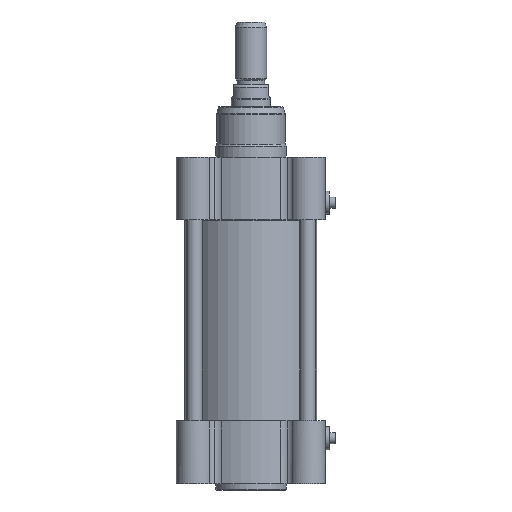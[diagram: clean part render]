
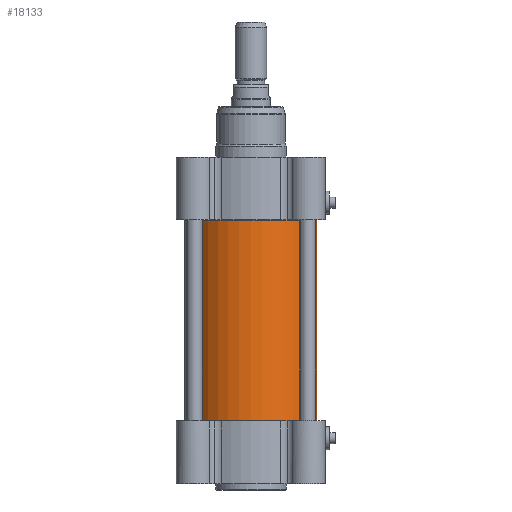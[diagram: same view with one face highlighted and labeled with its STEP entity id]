
A CAD part, front view. The second image highlights one B-rep face of the part: STEP entity #18133.
In plain terms, the highlighted cylindrical face has radius 42 mm (diameter 84 mm), a partial arc.
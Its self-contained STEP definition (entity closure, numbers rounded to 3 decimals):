
#1084 = CARTESIAN_POINT ( 'NONE',  ( 0., 0., 0.2 ) ) ;
#1723 = VERTEX_POINT ( 'NONE', #12046 ) ;
#1758 = CIRCLE ( 'NONE', #7232, 42. ) ;
#2853 = VERTEX_POINT ( 'NONE', #22502 ) ;
#4992 = LINE ( 'NONE', #26614, #16628 ) ;
#5057 = LINE ( 'NONE', #26542, #9592 ) ;
#6537 = DIRECTION ( 'NONE',  ( -1., 0., 0. ) ) ;
#6815 = CARTESIAN_POINT ( 'NONE',  ( 0., 0., 0. ) ) ;
#6996 = DIRECTION ( 'NONE',  ( 0., 0., 1. ) ) ;
#7208 = DIRECTION ( 'NONE',  ( 0., 0., 1. ) ) ;
#7232 = AXIS2_PLACEMENT_3D ( 'NONE', #16289, #13857, #24932 ) ;
#7731 = EDGE_CURVE ( 'NONE', #1723, #23466, #1758, .T. ) ;
#9592 = VECTOR ( 'NONE', #7208, 1000. ) ;
#10581 = ORIENTED_EDGE ( 'NONE', *, *, #17934, .T. ) ;
#10920 = CARTESIAN_POINT ( 'NONE',  ( 42., 0., 0.2 ) ) ;
#11646 = VERTEX_POINT ( 'NONE', #10920 ) ;
#11824 = ORIENTED_EDGE ( 'NONE', *, *, #7731, .F. ) ;
#12023 = CARTESIAN_POINT ( 'NONE',  ( 42., 0., 127.8 ) ) ;
#12046 = CARTESIAN_POINT ( 'NONE',  ( -42., 0., 127.8 ) ) ;
#13360 = CYLINDRICAL_SURFACE ( 'NONE', #18677, 42. ) ;
#13857 = DIRECTION ( 'NONE',  ( 0., 0., 1. ) ) ;
#15078 = FACE_OUTER_BOUND ( 'NONE', #15786, .T. ) ;
#15510 = AXIS2_PLACEMENT_3D ( 'NONE', #1084, #22261, #20135 ) ;
#15786 = EDGE_LOOP ( 'NONE', ( #16833, #10581, #11824, #25525 ) ) ;
#16289 = CARTESIAN_POINT ( 'NONE',  ( 0., 0., 127.8 ) ) ;
#16628 = VECTOR ( 'NONE', #6996, 1000. ) ;
#16833 = ORIENTED_EDGE ( 'NONE', *, *, #17866, .F. ) ;
#17866 = EDGE_CURVE ( 'NONE', #11646, #2853, #23675, .T. ) ;
#17934 = EDGE_CURVE ( 'NONE', #11646, #23466, #5057, .T. ) ;
#18133 = ADVANCED_FACE ( 'NONE', ( #15078 ), #13360, .T. ) ;
#18677 = AXIS2_PLACEMENT_3D ( 'NONE', #6815, #21446, #6537 ) ;
#20135 = DIRECTION ( 'NONE',  ( -1., 0., 0. ) ) ;
#21446 = DIRECTION ( 'NONE',  ( 0., 0., 1. ) ) ;
#22261 = DIRECTION ( 'NONE',  ( 0., 0., -1. ) ) ;
#22502 = CARTESIAN_POINT ( 'NONE',  ( -42., 0., 0.2 ) ) ;
#23466 = VERTEX_POINT ( 'NONE', #12023 ) ;
#23675 = CIRCLE ( 'NONE', #15510, 42. ) ;
#24932 = DIRECTION ( 'NONE',  ( -1., 0., 0. ) ) ;
#25525 = ORIENTED_EDGE ( 'NONE', *, *, #27900, .F. ) ;
#26542 = CARTESIAN_POINT ( 'NONE',  ( 42., 0., 0. ) ) ;
#26614 = CARTESIAN_POINT ( 'NONE',  ( -42., 0., 0. ) ) ;
#27900 = EDGE_CURVE ( 'NONE', #2853, #1723, #4992, .T. ) ;
